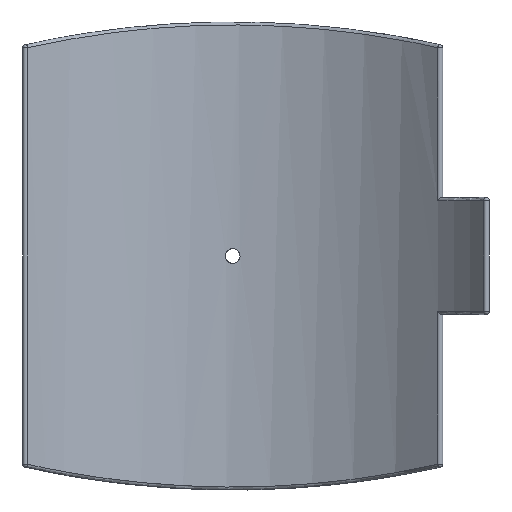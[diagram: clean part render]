
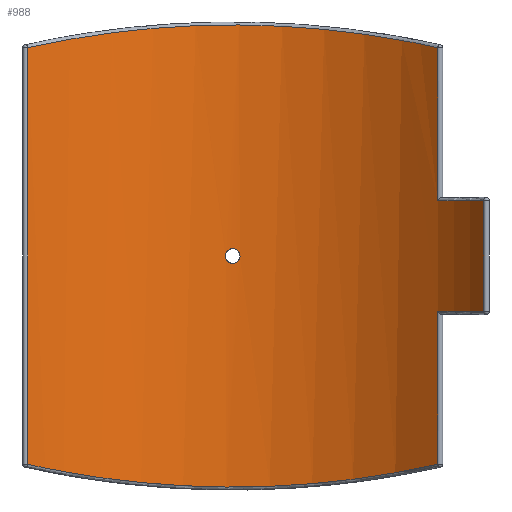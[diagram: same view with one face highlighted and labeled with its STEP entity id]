
A CAD part, front view. The second image highlights one B-rep face of the part: STEP entity #988.
In plain terms, the highlighted cylindrical face has radius 200 mm (diameter 400 mm), a partial arc.
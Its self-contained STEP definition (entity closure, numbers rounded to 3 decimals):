
#51=FACE_BOUND('',#212,.T.);
#132=FACE_OUTER_BOUND('',#211,.T.);
#211=EDGE_LOOP('',(#876,#877,#878,#879,#880,#881,#882,#883));
#212=EDGE_LOOP('',(#884));
#225=B_SPLINE_CURVE_WITH_KNOTS('',3,(#1854,#1855,#1856,#1857,#1858,#1859,
#1860,#1861,#1862,#1863,#1864,#1865,#1866,#1867,#1868,#1869,#1870,#1871,
#1872,#1873,#1874,#1875,#1876,#1877,#1878,#1879,#1880,#1881,#1882,#1883,
#1884,#1885,#1886,#1887),.UNSPECIFIED.,.T.,.F.,(4,2,2,2,2,2,2,2,2,2,2,2,
2,2,2,2,4),(0.,0.181,0.362,0.542,0.723,
0.904,1.085,1.266,1.447,1.627,
1.808,1.989,2.17,2.351,2.531,
2.712,2.893),.UNSPECIFIED.);
#231=B_SPLINE_CURVE_WITH_KNOTS('',3,(#2247,#2248,#2249,#2250,#2251,#2252,
#2253,#2254,#2255,#2256),.UNSPECIFIED.,.F.,.F.,(4,1,1,1,1,1,1,4),(-35.455,
-31.194,-26.934,-22.674,-18.413,
-14.153,-9.892,-5.632),.UNSPECIFIED.);
#237=B_SPLINE_CURVE_WITH_KNOTS('',3,(#2401,#2402,#2403,#2404,#2405,#2406,
#2407,#2408,#2409,#2410),.UNSPECIFIED.,.F.,.F.,(4,1,1,1,1,1,1,4),(-33.559,
-29.298,-25.038,-20.778,-16.517,
-12.257,-7.996,-3.736),.UNSPECIFIED.);
#259=LINE('',#2176,#300);
#263=LINE('',#2271,#304);
#270=LINE('',#2308,#311);
#275=LINE('',#2431,#316);
#300=VECTOR('',#1368,10.);
#304=VECTOR('',#1384,10.);
#311=VECTOR('',#1407,10.);
#316=VECTOR('',#1432,10.);
#388=CIRCLE('',#1119,200.);
#391=CIRCLE('',#1127,200.);
#425=VERTEX_POINT('',#1852);
#443=VERTEX_POINT('',#1989);
#448=VERTEX_POINT('',#2065);
#457=VERTEX_POINT('',#2091);
#458=VERTEX_POINT('',#2095);
#463=VERTEX_POINT('',#2168);
#468=VERTEX_POINT('',#2184);
#470=VERTEX_POINT('',#2270);
#474=VERTEX_POINT('',#2312);
#515=EDGE_CURVE('',#425,#425,#225,.T.);
#575=EDGE_CURVE('',#463,#457,#259,.T.);
#581=EDGE_CURVE('',#458,#468,#231,.T.);
#584=EDGE_CURVE('',#468,#470,#263,.T.);
#587=EDGE_CURVE('',#470,#463,#388,.T.);
#596=EDGE_CURVE('',#448,#458,#270,.T.);
#598=EDGE_CURVE('',#457,#474,#391,.T.);
#606=EDGE_CURVE('',#443,#448,#237,.T.);
#610=EDGE_CURVE('',#474,#443,#275,.T.);
#876=ORIENTED_EDGE('',*,*,#581,.F.);
#877=ORIENTED_EDGE('',*,*,#596,.F.);
#878=ORIENTED_EDGE('',*,*,#606,.F.);
#879=ORIENTED_EDGE('',*,*,#610,.F.);
#880=ORIENTED_EDGE('',*,*,#598,.F.);
#881=ORIENTED_EDGE('',*,*,#575,.F.);
#882=ORIENTED_EDGE('',*,*,#587,.F.);
#883=ORIENTED_EDGE('',*,*,#584,.F.);
#884=ORIENTED_EDGE('',*,*,#515,.T.);
#922=CYLINDRICAL_SURFACE('',#1144,200.);
#988=ADVANCED_FACE('',(#132,#51),#922,.F.);
#1119=AXIS2_PLACEMENT_3D('',#2287,#1389,#1390);
#1127=AXIS2_PLACEMENT_3D('',#2313,#1412,#1413);
#1144=AXIS2_PLACEMENT_3D('',#2447,#1456,#1457);
#1368=DIRECTION('',(0.,0.,-1.));
#1384=DIRECTION('',(0.,0.,-1.));
#1389=DIRECTION('center_axis',(0.,0.,-1.));
#1390=DIRECTION('ref_axis',(0.768,0.64,0.));
#1407=DIRECTION('',(0.,0.,1.));
#1412=DIRECTION('center_axis',(0.,0.,1.));
#1413=DIRECTION('ref_axis',(0.768,0.64,0.));
#1432=DIRECTION('',(0.,0.,-1.));
#1456=DIRECTION('center_axis',(0.,0.,1.));
#1457=DIRECTION('ref_axis',(-1.,0.,0.));
#1852=CARTESIAN_POINT('',(4.8,199.942,0.));
#1854=CARTESIAN_POINT('Ctrl Pts',(4.8,199.942,0.));
#1855=CARTESIAN_POINT('Ctrl Pts',(4.8,199.942,-0.603));
#1856=CARTESIAN_POINT('Ctrl Pts',(4.68,199.945,-1.246));
#1857=CARTESIAN_POINT('Ctrl Pts',(4.19,199.956,-2.428));
#1858=CARTESIAN_POINT('Ctrl Pts',(3.82,199.964,-2.968));
#1859=CARTESIAN_POINT('Ctrl Pts',(2.968,199.978,-3.82));
#1860=CARTESIAN_POINT('Ctrl Pts',(2.428,199.986,-4.19));
#1861=CARTESIAN_POINT('Ctrl Pts',(1.246,199.997,-4.68));
#1862=CARTESIAN_POINT('Ctrl Pts',(0.603,200.,-4.8));
#1863=CARTESIAN_POINT('Ctrl Pts',(-0.603,200.,-4.8));
#1864=CARTESIAN_POINT('Ctrl Pts',(-1.246,199.997,-4.68));
#1865=CARTESIAN_POINT('Ctrl Pts',(-2.428,199.986,-4.19));
#1866=CARTESIAN_POINT('Ctrl Pts',(-2.968,199.978,-3.82));
#1867=CARTESIAN_POINT('Ctrl Pts',(-3.82,199.964,-2.968));
#1868=CARTESIAN_POINT('Ctrl Pts',(-4.19,199.956,-2.428));
#1869=CARTESIAN_POINT('Ctrl Pts',(-4.68,199.945,-1.246));
#1870=CARTESIAN_POINT('Ctrl Pts',(-4.8,199.942,-0.603));
#1871=CARTESIAN_POINT('Ctrl Pts',(-4.8,199.942,0.603));
#1872=CARTESIAN_POINT('Ctrl Pts',(-4.68,199.945,1.246));
#1873=CARTESIAN_POINT('Ctrl Pts',(-4.19,199.956,2.428));
#1874=CARTESIAN_POINT('Ctrl Pts',(-3.82,199.964,2.968));
#1875=CARTESIAN_POINT('Ctrl Pts',(-2.968,199.978,3.82));
#1876=CARTESIAN_POINT('Ctrl Pts',(-2.428,199.986,4.19));
#1877=CARTESIAN_POINT('Ctrl Pts',(-1.246,199.997,4.68));
#1878=CARTESIAN_POINT('Ctrl Pts',(-0.603,200.,4.8));
#1879=CARTESIAN_POINT('Ctrl Pts',(0.603,200.,4.8));
#1880=CARTESIAN_POINT('Ctrl Pts',(1.246,199.997,4.68));
#1881=CARTESIAN_POINT('Ctrl Pts',(2.428,199.986,4.19));
#1882=CARTESIAN_POINT('Ctrl Pts',(2.968,199.978,3.82));
#1883=CARTESIAN_POINT('Ctrl Pts',(3.82,199.964,2.968));
#1884=CARTESIAN_POINT('Ctrl Pts',(4.19,199.956,2.428));
#1885=CARTESIAN_POINT('Ctrl Pts',(4.68,199.945,1.246));
#1886=CARTESIAN_POINT('Ctrl Pts',(4.8,199.942,0.603));
#1887=CARTESIAN_POINT('Ctrl Pts',(4.8,199.942,0.));
#1989=CARTESIAN_POINT('',(133.911,148.553,-136.099));
#2065=CARTESIAN_POINT('',(-133.911,148.553,-136.099));
#2091=CARTESIAN_POINT('',(164.109,114.317,-36.25));
#2095=CARTESIAN_POINT('',(-133.911,148.553,136.099));
#2168=CARTESIAN_POINT('',(164.109,114.317,36.25));
#2176=CARTESIAN_POINT('',(164.109,114.317,0.));
#2184=CARTESIAN_POINT('',(133.911,148.553,136.099));
#2247=CARTESIAN_POINT('Ctrl Pts',(-133.911,148.553,136.099));
#2248=CARTESIAN_POINT('Ctrl Pts',(-123.608,157.84,138.42));
#2249=CARTESIAN_POINT('Ctrl Pts',(-101.046,174.284,142.937));
#2250=CARTESIAN_POINT('Ctrl Pts',(-62.627,191.495,148.221));
#2251=CARTESIAN_POINT('Ctrl Pts',(-21.222,200.37,151.121));
#2252=CARTESIAN_POINT('Ctrl Pts',(21.222,200.369,151.12));
#2253=CARTESIAN_POINT('Ctrl Pts',(62.628,191.496,148.221));
#2254=CARTESIAN_POINT('Ctrl Pts',(101.045,174.284,142.936));
#2255=CARTESIAN_POINT('Ctrl Pts',(123.608,157.84,138.42));
#2256=CARTESIAN_POINT('Ctrl Pts',(133.911,148.553,136.099));
#2270=CARTESIAN_POINT('',(133.911,148.553,36.25));
#2271=CARTESIAN_POINT('',(133.911,148.553,0.));
#2287=CARTESIAN_POINT('Origin',(0.,0.,36.25));
#2308=CARTESIAN_POINT('',(-133.911,148.553,0.));
#2312=CARTESIAN_POINT('',(133.911,148.553,-36.25));
#2313=CARTESIAN_POINT('Origin',(0.,0.,-36.25));
#2401=CARTESIAN_POINT('Ctrl Pts',(133.911,148.553,-136.099));
#2402=CARTESIAN_POINT('Ctrl Pts',(123.608,157.84,-138.42));
#2403=CARTESIAN_POINT('Ctrl Pts',(101.045,174.285,-142.937));
#2404=CARTESIAN_POINT('Ctrl Pts',(62.627,191.495,-148.22));
#2405=CARTESIAN_POINT('Ctrl Pts',(21.222,200.37,-151.121));
#2406=CARTESIAN_POINT('Ctrl Pts',(-21.222,200.368,-151.119));
#2407=CARTESIAN_POINT('Ctrl Pts',(-62.628,191.496,-148.222));
#2408=CARTESIAN_POINT('Ctrl Pts',(-101.046,174.284,-142.936));
#2409=CARTESIAN_POINT('Ctrl Pts',(-123.608,157.84,-138.42));
#2410=CARTESIAN_POINT('Ctrl Pts',(-133.911,148.553,-136.099));
#2431=CARTESIAN_POINT('',(133.911,148.553,0.));
#2447=CARTESIAN_POINT('Origin',(0.,0.,0.));
